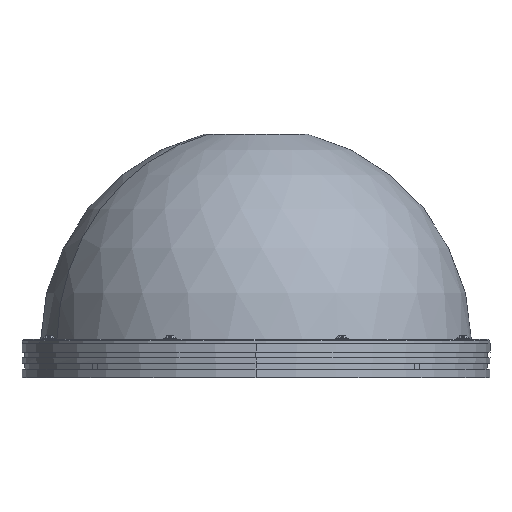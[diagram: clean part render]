
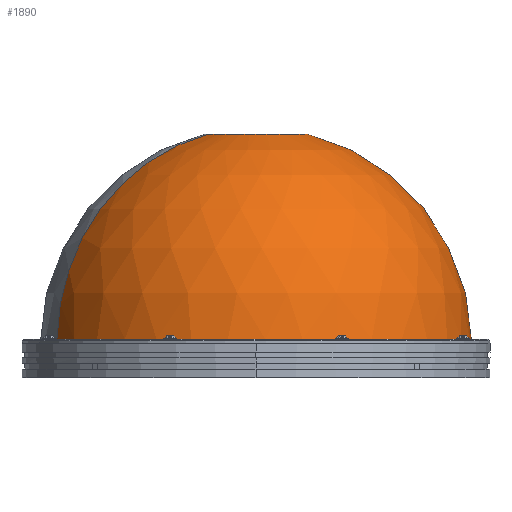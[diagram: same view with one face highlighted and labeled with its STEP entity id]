
A CAD part, left-side view. The second image highlights one B-rep face of the part: STEP entity #1890.
In plain terms, the highlighted spherical face has radius 76 mm.
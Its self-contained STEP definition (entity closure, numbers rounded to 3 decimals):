
#1890=ADVANCED_FACE('',(#3757),#3758,.T.);
#3757=FACE_OUTER_BOUND('',#5841,.T.);
#3758=SPHERICAL_SURFACE('',#5842,76.0);
#5841=EDGE_LOOP('',(#10897,#10898,#10899,#10900));
#5842=AXIS2_PLACEMENT_3D('',#10901,#10902,#10903);
#10897=ORIENTED_EDGE('',*,*,#13811,.F.);
#10898=ORIENTED_EDGE('',*,*,#13801,.F.);
#10899=ORIENTED_EDGE('',*,*,#13812,.F.);
#10900=ORIENTED_EDGE('',*,*,#13813,.T.);
#10901=CARTESIAN_POINT('',(0.,0.,0.));
#10902=DIRECTION('',(0.,0.,1.0));
#10903=DIRECTION('',(0.,1.0,0.));
#13801=EDGE_CURVE('',#17139,#17135,#17141,.T.);
#13811=EDGE_CURVE('',#17135,#17155,#17156,.T.);
#13812=EDGE_CURVE('',#17157,#17139,#17158,.T.);
#13813=EDGE_CURVE('',#17157,#17155,#17159,.T.);
#17135=VERTEX_POINT('',#23779);
#17139=VERTEX_POINT('',#23784);
#17141=CIRCLE('',#23787,17.986);
#17155=VERTEX_POINT('',#23803);
#17156=CIRCLE('',#23804,76.0);
#17157=VERTEX_POINT('',#23805);
#17158=CIRCLE('',#23806,76.0);
#17159=CIRCLE('',#23807,75.985);
#23779=CARTESIAN_POINT('',(0.,-17.986,73.841));
#23784=CARTESIAN_POINT('',(0.0,17.986,73.841));
#23787=AXIS2_PLACEMENT_3D('',#26304,#26305,#26306);
#23803=CARTESIAN_POINT('',(0.,-75.985,1.5));
#23804=AXIS2_PLACEMENT_3D('',#26321,#26322,#26323);
#23805=CARTESIAN_POINT('',(0.0,75.985,1.5));
#23806=AXIS2_PLACEMENT_3D('',#26324,#26325,#26326);
#23807=AXIS2_PLACEMENT_3D('',#26327,#26328,#26329);
#26304=CARTESIAN_POINT('',(0.,0.,73.841));
#26305=DIRECTION('',(0.,0.,1.0));
#26306=DIRECTION('',(0.,1.0,0.));
#26321=CARTESIAN_POINT('',(0.,0.,0.));
#26322=DIRECTION('',(1.0,0.,0.));
#26323=DIRECTION('',(0.,0.0,1.0));
#26324=CARTESIAN_POINT('',(0.0,0.,0.));
#26325=DIRECTION('',(1.0,0.0,-0.0));
#26326=DIRECTION('',(0.0,1.,0.02));
#26327=CARTESIAN_POINT('',(0.,0.,1.5));
#26328=DIRECTION('',(0.,0.,1.0));
#26329=DIRECTION('',(0.,1.0,0.));
